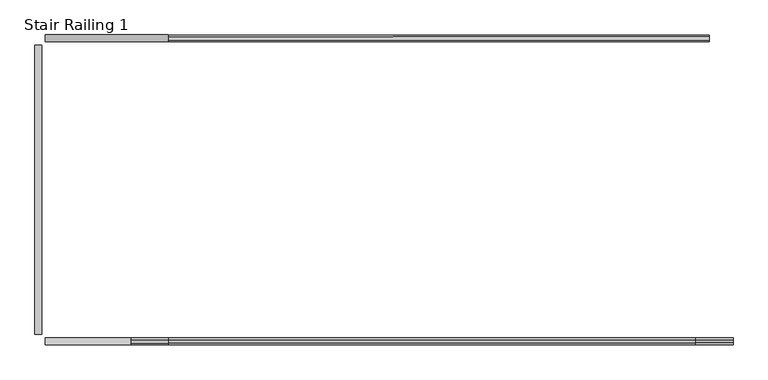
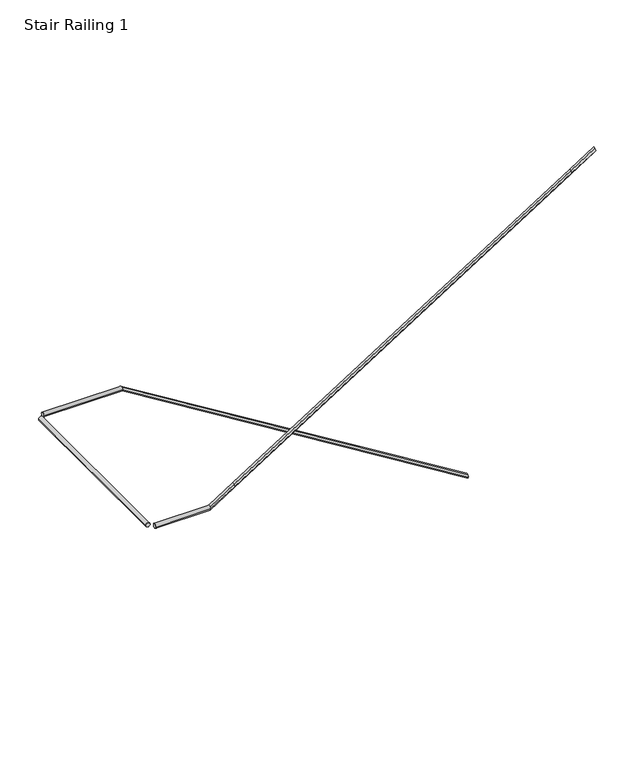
"""IFC4 building model written with IfcOpenShell, lengths in millimetres: railing geometry, Stair Railing 1."""

from ifc_helpers import new_model, si_unit, frame, origin, place, context, project, spatial, circle_curve, faceted_brep, source, transform, mapped, element, save
from ifc_brep_helpers import plane_surface, cylinder_surface, advanced_brep


def stair_railing_1_b1bba10e(model_context):
    return source(origin(), model_context, "Body", "SolidModel", [
        faceted_brep([(46517.5398084, 47258.2865351, 3746.9096774), (46517.5398084, 47245.5865351, 3724.9126322), (46517.5398084, 47220.1865351, 3724.9126322), (46517.5398084, 47207.4865351, 3746.9096774), (46517.5398084, 47220.1865351, 3768.9067227), (46517.5398084, 47245.5865351, 3768.9067227), (50533.2139908, 47258.2865351, 1269.1806452), (50533.2139908, 47245.5865351, 1291.1776904), (50533.2139908, 47220.1865351, 1291.1776904), (50533.2139908, 47207.4865351, 1269.1806452), (50533.2139908, 47220.1865351, 1247.1835999), (50533.2139908, 47245.5865351, 1247.1835999)], [[[0, 1, 2, 3, 4, 5]], [[6, 7, 8, 9, 10, 11]], [[1, 0, 6, 11]], [[2, 1, 11, 10]], [[3, 2, 10, 9]], [[4, 3, 9, 8]], [[5, 4, 8, 7]], [[0, 5, 7, 6]]]),
        advanced_brep(
        [(45603.1398084, 47258.2865351, 3746.9096774), (45603.1398084, 47207.4865351, 3746.9096774), (46517.5398084, 47258.2865351, 3746.9096774), (46517.5398084, 47207.4865351, 3746.9096774)],
        [
            (0, 1, circle_curve(frame((45603.1398084, 47232.8865351, 3746.9096774), z_axis=(-1.0, 0.0, 0.0), x_axis=(0.0, 1.0, 0.0)), 25.4)),
            (1, 0, circle_curve(frame((45603.1398084, 47232.8865351, 3746.9096774), z_axis=(-1.0, 0.0, 0.0), x_axis=(0.0, 1.0, 0.0)), 25.4)),
            (2, 3, circle_curve(frame((46517.5398084, 47232.8865351, 3746.9096774), z_axis=(1.0, 0.0, 0.0), x_axis=(0.0, 1.0, 0.0)), 25.4)),
            (3, 2, circle_curve(frame((46517.5398084, 47232.8865351, 3746.9096774), z_axis=(1.0, 0.0, 0.0), x_axis=(0.0, 1.0, 0.0)), 25.4)),
            (0, 2),
            (3, 1),
        ],
        [
            plane_surface(frame((45603.1398084, 47258.2865351, 3721.5096774), z_axis=(-1.0, 0.0, 0.0), x_axis=(0.0, -1.0, 0.0))),
            plane_surface(frame((46517.5398084, 47258.2865351, 3721.5096774), z_axis=(1.0, 0.0, 0.0), x_axis=(0.0, 1.0, 0.0))),
            cylinder_surface(frame((46517.5398084, 47232.8865351, 3746.9096774), z_axis=(-1.0, 0.0, 0.0), x_axis=(0.0, 1.0, 0.0)), 25.4),
        ],
        [
            (0, [[1, 2]]),
            (1, [[3, 4]]),
            (2, [[-1, 5, -4, 6]]),
            (2, [[-2, -6, -3, -5]]),
        ],
    ),
        advanced_brep(
        [(45526.9398084, 45032.0030566, 3746.9096774), (45577.7398084, 45032.0030566, 3746.9096774), (45526.9398084, 47182.0865351, 3746.9096774), (45577.7398084, 47182.0865351, 3746.9096774)],
        [
            (0, 1, circle_curve(frame((45552.3398084, 45032.0030566, 3746.9096774), z_axis=(0.0, -1.0, 0.0), x_axis=(-1.0, 0.0, 0.0)), 25.4)),
            (1, 0, circle_curve(frame((45552.3398084, 45032.0030566, 3746.9096774), z_axis=(0.0, -1.0, 0.0), x_axis=(-1.0, 0.0, 0.0)), 25.4)),
            (2, 3, circle_curve(frame((45552.3398084, 47182.0865351, 3746.9096774), z_axis=(0.0, 1.0, 0.0), x_axis=(-1.0, 0.0, 0.0)), 25.4)),
            (3, 2, circle_curve(frame((45552.3398084, 47182.0865351, 3746.9096774), z_axis=(0.0, 1.0, 0.0), x_axis=(-1.0, 0.0, 0.0)), 25.4)),
            (0, 2),
            (3, 1),
        ],
        [
            plane_surface(frame((45526.9398084, 45032.0030566, 3721.5096774), z_axis=(0.0, -1.0, 0.0), x_axis=(0.0, 0.0, -1.0))),
            plane_surface(frame((45526.9398084, 47182.0865351, 3721.5096774), z_axis=(0.0, 1.0, 0.0), x_axis=(0.0, 0.0, 1.0))),
            cylinder_surface(frame((45552.3398084, 47182.0865351, 3746.9096774), z_axis=(0.0, -1.0, 0.0), x_axis=(-1.0, 0.0, 0.0)), 25.4),
        ],
        [
            (0, [[1, 2]]),
            (1, [[3, 4]]),
            (2, [[-1, 5, -4, 6]]),
            (2, [[-2, -6, -3, -5]]),
        ],
    ),
        advanced_brep(
        [(46238.1398084, 44955.8030566, 3746.9096774), (46238.1398084, 45006.6030566, 3746.9096774), (45603.1398084, 44955.8030566, 3746.9096774), (45603.1398084, 45006.6030566, 3746.9096774)],
        [
            (0, 1, circle_curve(frame((46238.1398084, 44981.2030566, 3746.9096774), z_axis=(1.0, 0.0, 0.0), x_axis=(0.0, -1.0, 0.0)), 25.4)),
            (1, 0, circle_curve(frame((46238.1398084, 44981.2030566, 3746.9096774), z_axis=(1.0, 0.0, 0.0), x_axis=(0.0, -1.0, 0.0)), 25.4)),
            (2, 3, circle_curve(frame((45603.1398084, 44981.2030566, 3746.9096774), z_axis=(-1.0, 0.0, 0.0), x_axis=(0.0, -1.0, 0.0)), 25.4)),
            (3, 2, circle_curve(frame((45603.1398084, 44981.2030566, 3746.9096774), z_axis=(-1.0, 0.0, 0.0), x_axis=(0.0, -1.0, 0.0)), 25.4)),
            (0, 2),
            (3, 1),
        ],
        [
            plane_surface(frame((46238.1398084, 44955.8030566, 3721.5096774), z_axis=(1.0, 0.0, 0.0), x_axis=(0.0, 1.0, 0.0))),
            plane_surface(frame((45603.1398084, 44955.8030566, 3721.5096774), z_axis=(-1.0, 0.0, 0.0), x_axis=(0.0, -1.0, 0.0))),
            cylinder_surface(frame((45603.1398084, 44981.2030566, 3746.9096774), z_axis=(1.0, 0.0, 0.0), x_axis=(0.0, -1.0, 0.0)), 25.4),
        ],
        [
            (0, [[1, 2]]),
            (1, [[3, 4]]),
            (2, [[-1, 5, -4, 6]]),
            (2, [[-2, -6, -3, -5]]),
        ],
    ),
        faceted_brep([(46517.5398084, 44955.8030566, 3923.8903226), (46517.5398084, 44968.5030566, 3901.8932773), (46517.5398084, 44993.9030566, 3901.8932773), (46517.5398084, 45006.6030566, 3923.8903226), (46517.5398084, 44993.9030566, 3945.8873678), (46517.5398084, 44968.5030566, 3945.8873678), (46238.1398084, 44955.8030566, 3746.9096774), (46238.1398084, 44968.5030566, 3768.9067227), (46238.1398084, 44993.9030566, 3768.9067227), (46238.1398084, 45006.6030566, 3746.9096774), (46238.1398084, 44993.9030566, 3724.9126322), (46238.1398084, 44968.5030566, 3724.9126322)], [[[0, 1, 2, 3, 4, 5]], [[6, 7, 8, 9, 10, 11]], [[1, 0, 6, 11]], [[2, 1, 11, 10]], [[3, 2, 10, 9]], [[4, 3, 9, 8]], [[5, 4, 8, 7]], [[0, 5, 7, 6]]]),
        faceted_brep([(50429.1398084, 44955.8030566, 6401.6193548), (50429.1398084, 44968.5030566, 6379.6223096), (50429.1398084, 44993.9030566, 6379.6223096), (50429.1398084, 45006.6030566, 6401.6193548), (50429.1398084, 44993.9030566, 6423.6164001), (50429.1398084, 44968.5030566, 6423.6164001), (46517.5398084, 44955.8030566, 3923.8903226), (46517.5398084, 44968.5030566, 3945.8873678), (46517.5398084, 44993.9030566, 3945.8873678), (46517.5398084, 45006.6030566, 3923.8903226), (46517.5398084, 44993.9030566, 3901.8932773), (46517.5398084, 44968.5030566, 3901.8932773)], [[[0, 1, 2, 3, 4, 5]], [[6, 7, 8, 9, 10, 11]], [[1, 0, 6, 11]], [[2, 1, 11, 10]], [[3, 2, 10, 9]], [[4, 3, 9, 8]], [[5, 4, 8, 7]], [[0, 5, 7, 6]]]),
        faceted_brep([(50708.5398084, 44955.8030566, 6578.6), (50708.5398084, 44968.5030566, 6556.6029547), (50708.5398084, 44993.9030566, 6556.6029547), (50708.5398084, 45006.6030566, 6578.6), (50708.5398084, 44993.9030566, 6600.5970453), (50708.5398084, 44968.5030566, 6600.5970453), (50429.1398084, 44955.8030566, 6401.6193548), (50429.1398084, 44968.5030566, 6423.6164001), (50429.1398084, 44993.9030566, 6423.6164001), (50429.1398084, 45006.6030566, 6401.6193548), (50429.1398084, 44993.9030566, 6379.6223096), (50429.1398084, 44968.5030566, 6379.6223096)], [[[0, 1, 2, 3, 4, 5]], [[6, 7, 8, 9, 10, 11]], [[1, 0, 6, 11]], [[2, 1, 11, 10]], [[3, 2, 10, 9]], [[4, 3, 9, 8]], [[5, 4, 8, 7]], [[0, 5, 7, 6]]]),
    ])


if __name__ == "__main__":
    model = new_model("IFC4")
    model_context = context("Model", 3, world=origin())
    ifc_project = project(units=[si_unit("LENGTHUNIT", "METRE", prefix="MILLI")], contexts=[model_context])
    site = spatial("IfcSite", under=ifc_project)
    building = spatial("IfcBuilding", under=site)
    placement = place(None, origin())
    stair_railing_1_shape = stair_railing_1_b1bba10e(model_context)
    element("IfcRailing", 1, ObjectType="Stair Railing 1", at=placement, inside=building, context=model_context, shape_type="MappedRepresentation", body=[
        mapped(stair_railing_1_shape, transform((0.0, 0.0, 0.0), x_axis=(1.0, 0.0, 0.0), y_axis=(0.0, 1.0, 0.0), z_axis=(0.0, 0.0, 1.0))),
    ])
    save(model, "model.ifc")
